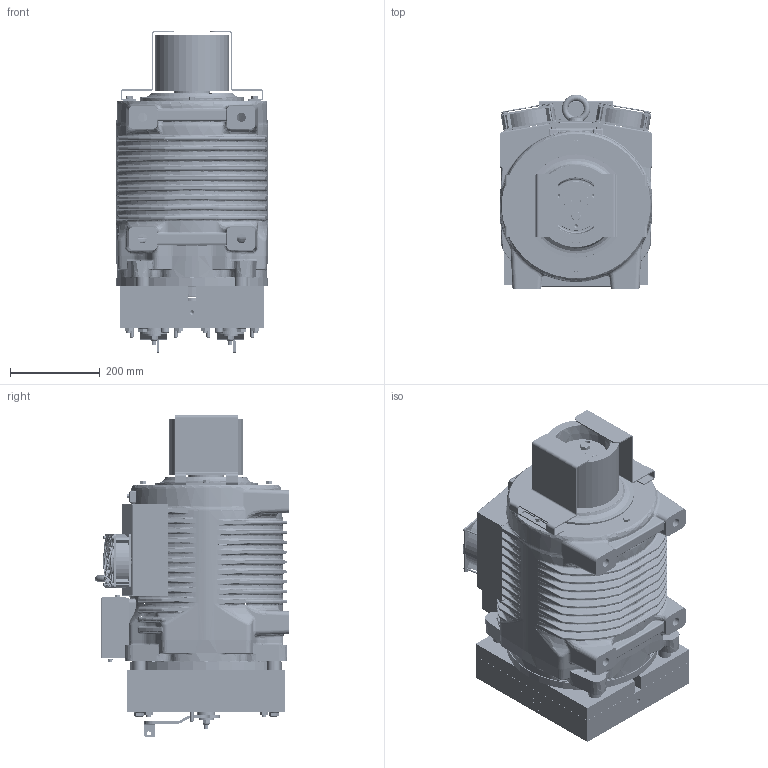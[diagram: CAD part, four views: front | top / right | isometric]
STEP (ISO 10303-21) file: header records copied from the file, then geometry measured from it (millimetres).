
FILE_DESCRIPTION((''),'2;1');
FILE_NAME('00363588_ASM','2020-06-08T',('furlanis'),('Sicor spa'),'CREO PARAMETRIC BY PTC INC, 2017170','CREO PARAMETRIC BY PTC INC, 2017170','');
FILE_SCHEMA(('CONFIG_CONTROL_DESIGN'));
Products named in the file (18): SG48; _160_125; _160; 00073486; TEM12X45_VIT0222; 00255325; M4_FTT_C; 00257514_ASM; 00002908; 00002901; 00002909_ASM; 00002902; 00042420_M4X50; TEM6X12_VIR0184; 00000263; 00257517_ASM; RTW800_MIT_HL; 00363588_ASM
Assembly tree (37 placements, depth 4):
  00363588_ASM
    SG48
    _160_125
    _160  x2
    00073486
    TEM12X45_VIT0222  x3
    00257517_ASM
      00257514_ASM
        00255325
        M4_FTT_C  x8
      00002909_ASM  x2
        00002908
        00002901
      00002902  x2
      00042420_M4X50  x8
      TEM6X12_VIR0184  x2
      00000263
    RTW800_MIT_HL
Bounding box: 340.21 x 433.5 x 717.34 mm (x, y, z)
Volume: 14093013.9 mm3; surface area: 3106946.8 mm2
Topology: 35 solids, 289 shells, 8491 faces, 24845 edges, 16577 vertices
Faces by surface type: plane 4460, cylinder 1799, bspline 904, cone 688, torus 586, sphere 42, revolution 12
Entity records: 343437 total; most frequent: CARTESIAN_POINT 146102, ORIENTED_EDGE 41354, DIRECTION 36841, EDGE_CURVE 23151, VERTEX_POINT 15584, VECTOR 13701, LINE 13701, AXIS2_PLACEMENT_3D 11564
